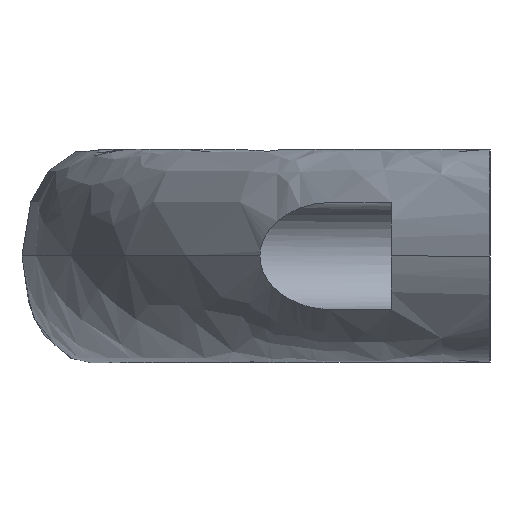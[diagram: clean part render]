
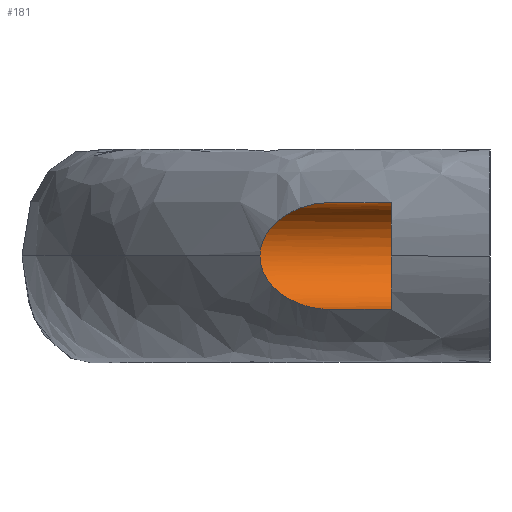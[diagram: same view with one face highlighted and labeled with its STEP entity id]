
A CAD part, left-side view. The second image highlights one B-rep face of the part: STEP entity #181.
In plain terms, the highlighted cylindrical face has radius 6.5 mm (diameter 13 mm), a partial arc.
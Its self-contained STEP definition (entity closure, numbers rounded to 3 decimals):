
#31 = EDGE_CURVE ( 'NONE', #54, #35, #346, .T. ) ;
#35 = VERTEX_POINT ( 'NONE', #403 ) ;
#54 = VERTEX_POINT ( 'NONE', #1067 ) ;
#82 = EDGE_CURVE ( 'NONE', #92, #54, #1447, .T. ) ;
#92 = VERTEX_POINT ( 'NONE', #1035 ) ;
#174 = ORIENTED_EDGE ( 'NONE', *, *, #252, .T. ) ;
#181 = ADVANCED_FACE ( 'NONE', ( #1838 ), #1757, .F. ) ;
#194 = VERTEX_POINT ( 'NONE', #1876 ) ;
#195 = EDGE_LOOP ( 'NONE', ( #207, #231, #228, #174, #205 ) ) ;
#205 = ORIENTED_EDGE ( 'NONE', *, *, #217, .F. ) ;
#207 = ORIENTED_EDGE ( 'NONE', *, *, #82, .T. ) ;
#216 = EDGE_CURVE ( 'NONE', #35, #253, #1851, .T. ) ;
#217 = EDGE_CURVE ( 'NONE', #92, #194, #1727, .T. ) ;
#228 = ORIENTED_EDGE ( 'NONE', *, *, #216, .T. ) ;
#231 = ORIENTED_EDGE ( 'NONE', *, *, #31, .T. ) ;
#252 = EDGE_CURVE ( 'NONE', #253, #194, #1803, .T. ) ;
#253 = VERTEX_POINT ( 'NONE', #1728 ) ;
#330 = CARTESIAN_POINT ( 'NONE',  ( -74.502, 26.635, -3.474 ) ) ;
#331 = CARTESIAN_POINT ( 'NONE',  ( -74.889, 26.11, -4.022 ) ) ;
#332 = CARTESIAN_POINT ( 'NONE',  ( -73.851, 27.523, -2.174 ) ) ;
#337 = CARTESIAN_POINT ( 'NONE',  ( -73.591, 27.878, -1.121 ) ) ;
#338 = CARTESIAN_POINT ( 'NONE',  ( -73.5, 28.003, -0.287 ) ) ;
#345 = CARTESIAN_POINT ( 'NONE',  ( -77.514, 22.662, -6.017 ) ) ;
#346 = B_SPLINE_CURVE_WITH_KNOTS ( 'NONE', 3,
 ( #410, #338, #402, #337, #391, #332, #352, #368, #330, #360, #331, #409, #411, #384, #378, #369, #345, #387, #372, #371 ),
 .UNSPECIFIED., .F., .F.,
 ( 4, 2, 2, 2, 2, 2, 2, 2, 2, 4 ),
 ( 0.013, 0.014, 0.015, 0.017, 0.018, 0.018, 0.02, 0.022, 0.024, 0.027 ),
 .UNSPECIFIED. ) ;
#352 = CARTESIAN_POINT ( 'NONE',  ( -74.046, 27.257, -2.65 ) ) ;
#360 = CARTESIAN_POINT ( 'NONE',  ( -74.755, 26.292, -3.846 ) ) ;
#368 = CARTESIAN_POINT ( 'NONE',  ( -74.382, 26.798, -3.278 ) ) ;
#369 = CARTESIAN_POINT ( 'NONE',  ( -77.179, 23.089, -5.868 ) ) ;
#371 = CARTESIAN_POINT ( 'NONE',  ( -80., 19.666, -6.5 ) ) ;
#372 = CARTESIAN_POINT ( 'NONE',  ( -79.251, 20.52, -6.5 ) ) ;
#378 = CARTESIAN_POINT ( 'NONE',  ( -76.521, 23.939, -5.503 ) ) ;
#384 = CARTESIAN_POINT ( 'NONE',  ( -76.203, 24.356, -5.29 ) ) ;
#387 = CARTESIAN_POINT ( 'NONE',  ( -78.54, 21.378, -6.375 ) ) ;
#391 = CARTESIAN_POINT ( 'NONE',  ( -73.646, 27.804, -1.395 ) ) ;
#402 = CARTESIAN_POINT ( 'NONE',  ( -73.519, 27.978, -0.568 ) ) ;
#403 = CARTESIAN_POINT ( 'NONE',  ( -80., 19.666, -6.5 ) ) ;
#409 = CARTESIAN_POINT ( 'NONE',  ( -75.303, 25.552, -4.514 ) ) ;
#410 = CARTESIAN_POINT ( 'NONE',  ( -73.5, 28.003, 0. ) ) ;
#411 = CARTESIAN_POINT ( 'NONE',  ( -75.595, 25.162, -4.796 ) ) ;
#1035 = CARTESIAN_POINT ( 'NONE',  ( -80., 19.666, 6.5 ) ) ;
#1067 = CARTESIAN_POINT ( 'NONE',  ( -73.5, 28.003, 0. ) ) ;
#1441 = CARTESIAN_POINT ( 'NONE',  ( -76.521, 23.938, 5.504 ) ) ;
#1442 = CARTESIAN_POINT ( 'NONE',  ( -77.179, 23.089, 5.868 ) ) ;
#1443 = CARTESIAN_POINT ( 'NONE',  ( -77.514, 22.662, 6.017 ) ) ;
#1444 = CARTESIAN_POINT ( 'NONE',  ( -78.54, 21.378, 6.375 ) ) ;
#1445 = CARTESIAN_POINT ( 'NONE',  ( -79.251, 20.52, 6.5 ) ) ;
#1446 = CARTESIAN_POINT ( 'NONE',  ( -80., 19.666, 6.5 ) ) ;
#1447 = B_SPLINE_CURVE_WITH_KNOTS ( 'NONE', 3,
 ( #1446, #1445, #1444, #1443, #1442, #1441, #1580, #1579, #1578, #1577, #1576, #1575, #1574, #1573, #1572, #1571, #1570, #1569, #1568, #1567 ),
 .UNSPECIFIED., .F., .F.,
 ( 4, 2, 2, 2, 2, 2, 2, 2, 2, 4 ),
 ( 0., 0.003, 0.005, 0.007, 0.008, 0.01, 0.011, 0.012, 0.013, 0.013 ),
 .UNSPECIFIED. ) ;
#1567 = CARTESIAN_POINT ( 'NONE',  ( -73.5, 28.003, 0. ) ) ;
#1568 = CARTESIAN_POINT ( 'NONE',  ( -73.5, 28.003, 0.287 ) ) ;
#1569 = CARTESIAN_POINT ( 'NONE',  ( -73.519, 27.978, 0.569 ) ) ;
#1570 = CARTESIAN_POINT ( 'NONE',  ( -73.591, 27.878, 1.121 ) ) ;
#1571 = CARTESIAN_POINT ( 'NONE',  ( -73.646, 27.804, 1.395 ) ) ;
#1572 = CARTESIAN_POINT ( 'NONE',  ( -73.782, 27.617, 1.913 ) ) ;
#1573 = CARTESIAN_POINT ( 'NONE',  ( -73.864, 27.505, 2.159 ) ) ;
#1574 = CARTESIAN_POINT ( 'NONE',  ( -74.05, 27.25, 2.63 ) ) ;
#1575 = CARTESIAN_POINT ( 'NONE',  ( -74.156, 27.107, 2.855 ) ) ;
#1576 = CARTESIAN_POINT ( 'NONE',  ( -74.493, 26.647, 3.486 ) ) ;
#1577 = CARTESIAN_POINT ( 'NONE',  ( -74.747, 26.301, 3.853 ) ) ;
#1578 = CARTESIAN_POINT ( 'NONE',  ( -75.301, 25.555, 4.512 ) ) ;
#1579 = CARTESIAN_POINT ( 'NONE',  ( -75.594, 25.163, 4.795 ) ) ;
#1580 = CARTESIAN_POINT ( 'NONE',  ( -76.203, 24.356, 5.29 ) ) ;
#1724 = DIRECTION ( 'NONE',  ( 0., -1., 0. ) ) ;
#1725 = VECTOR ( 'NONE', #1724, 1000. ) ;
#1726 = CARTESIAN_POINT ( 'NONE',  ( -80., 58.307, 6.5 ) ) ;
#1727 = LINE ( 'NONE', #1726, #1725 ) ;
#1728 = CARTESIAN_POINT ( 'NONE',  ( -80., 12., -6.5 ) ) ;
#1731 = DIRECTION ( 'NONE',  ( 0., -1., 0. ) ) ;
#1732 = VECTOR ( 'NONE', #1731, 1000. ) ;
#1735 = AXIS2_PLACEMENT_3D ( 'NONE', #1862, #1759, #1754 ) ;
#1754 = DIRECTION ( 'NONE',  ( 0., 0., -1. ) ) ;
#1757 = CYLINDRICAL_SURFACE ( 'NONE', #1735, 6.5 ) ;
#1759 = DIRECTION ( 'NONE',  ( 0., -1., 0. ) ) ;
#1798 = DIRECTION ( 'NONE',  ( 0., 0., 1. ) ) ;
#1799 = DIRECTION ( 'NONE',  ( 0., -1., 0. ) ) ;
#1800 = CARTESIAN_POINT ( 'NONE',  ( -80., 12., 0. ) ) ;
#1801 = AXIS2_PLACEMENT_3D ( 'NONE', #1800, #1799, #1798 ) ;
#1803 = CIRCLE ( 'NONE', #1801, 6.5 ) ;
#1838 = FACE_OUTER_BOUND ( 'NONE', #195, .T. ) ;
#1850 = CARTESIAN_POINT ( 'NONE',  ( -80., 58.307, -6.5 ) ) ;
#1851 = LINE ( 'NONE', #1850, #1732 ) ;
#1862 = CARTESIAN_POINT ( 'NONE',  ( -80., 58.307, 0. ) ) ;
#1876 = CARTESIAN_POINT ( 'NONE',  ( -80., 12., 6.5 ) ) ;
